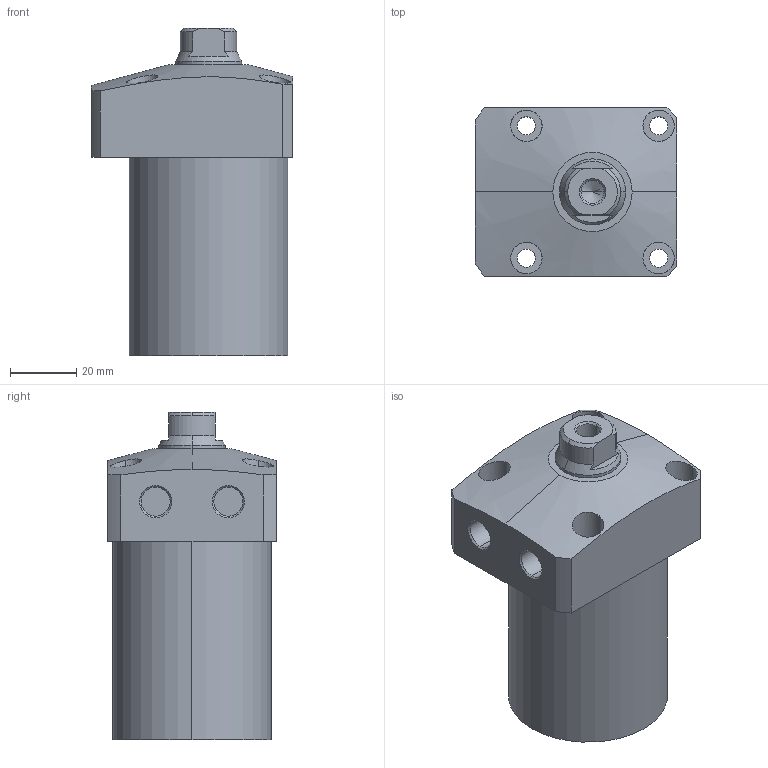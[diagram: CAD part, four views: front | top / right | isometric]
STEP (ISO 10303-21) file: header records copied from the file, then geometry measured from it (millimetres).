
FILE_DESCRIPTION (( 'STEP AP203' ), '1' );
FILE_NAME ('CLL-0480-CA-50.STEP', '2017-05-09T02:26:48', ( '' ), ( '' ), 'SwSTEP 2.0', 'SolidWorks 2015', '' );
FILE_SCHEMA (( 'CONFIG_CONTROL_DESIGN' ));
Length unit declared in the file: millimetre
Products named in the file (1): CLL-0480-CA-50
Bounding box: 61 x 51 x 99 mm (x, y, z)
Volume: 183178.2 mm3; surface area: 23612.6 mm2
Topology: 1 solids, 1 shells, 72 faces, 169 edges, 108 vertices
Faces by surface type: cylinder 35, plane 22, cone 15
Entity records: 2479 total; most frequent: CARTESIAN_POINT 714, DIRECTION 366, ORIENTED_EDGE 334, EDGE_CURVE 167, AXIS2_PLACEMENT_3D 150, VERTEX_POINT 108, EDGE_LOOP 91, CIRCLE 77
